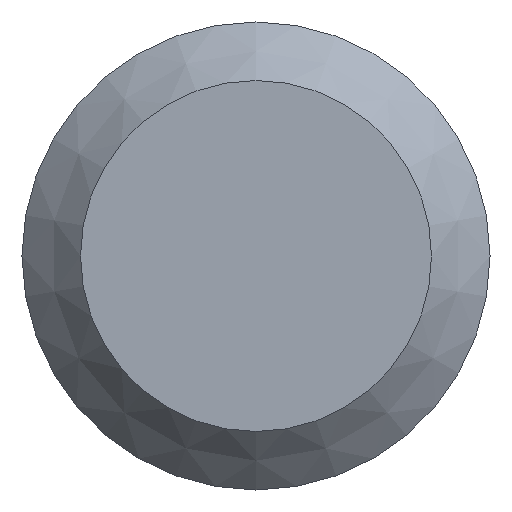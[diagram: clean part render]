
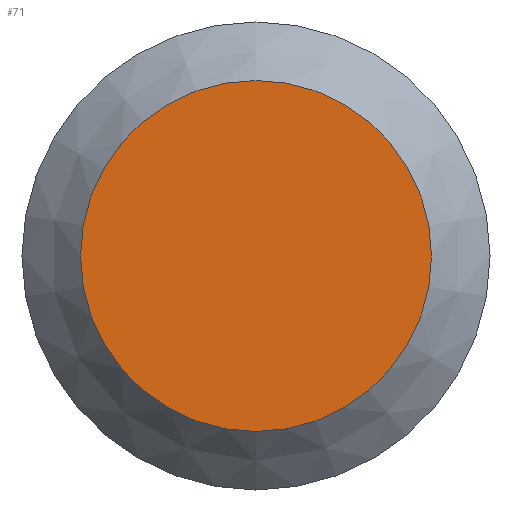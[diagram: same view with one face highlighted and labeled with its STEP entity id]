
A CAD part, front view. The second image highlights one B-rep face of the part: STEP entity #71.
In plain terms, the highlighted planar face has unit normal (0, -1, 0).
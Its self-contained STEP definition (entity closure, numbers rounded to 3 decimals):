
#17=PLANE('',#99);
#19=FACE_OUTER_BOUND('',#24,.T.);
#24=EDGE_LOOP('',(#57));
#36=CIRCLE('',#98,1.5);
#41=VERTEX_POINT('',#136);
#47=EDGE_CURVE('',#41,#41,#36,.T.);
#57=ORIENTED_EDGE('',*,*,#47,.F.);
#71=ADVANCED_FACE('',(#19),#17,.T.);
#98=AXIS2_PLACEMENT_3D('',#138,#114,#115);
#99=AXIS2_PLACEMENT_3D('',#139,#116,#117);
#114=DIRECTION('center_axis',(0.,1.,0.));
#115=DIRECTION('ref_axis',(0.,0.,-1.));
#116=DIRECTION('center_axis',(0.,-1.,0.));
#117=DIRECTION('ref_axis',(0.,0.,-1.));
#136=CARTESIAN_POINT('',(0.,0.,1.5));
#138=CARTESIAN_POINT('Origin',(0.,0.,0.));
#139=CARTESIAN_POINT('Origin',(0.,0.,2.));
